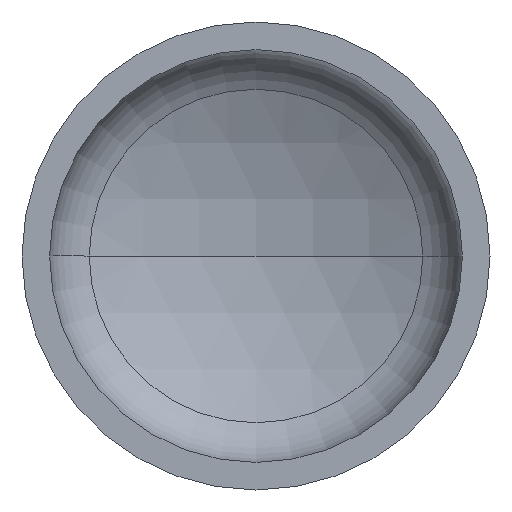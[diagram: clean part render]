
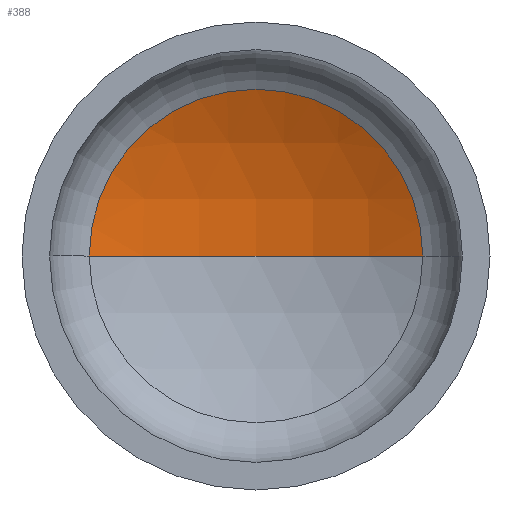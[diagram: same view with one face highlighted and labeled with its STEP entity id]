
A CAD part, front view. The second image highlights one B-rep face of the part: STEP entity #388.
In plain terms, the highlighted spherical face has radius 325 mm.
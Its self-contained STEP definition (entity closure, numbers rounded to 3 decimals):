
#18 = CARTESIAN_POINT ( 'NONE',  ( -144.829, 130.504, 0. ) ) ;
#30 = DIRECTION ( 'NONE',  ( 1., 0., 0. ) ) ;
#34 = DIRECTION ( 'NONE',  ( 0., 0., 1. ) ) ;
#43 = AXIS2_PLACEMENT_3D ( 'NONE', #148, #34, #30 ) ;
#44 = AXIS2_PLACEMENT_3D ( 'NONE', #196, #231, #230 ) ;
#51 = AXIS2_PLACEMENT_3D ( 'NONE', #252, #162, #177 ) ;
#96 = ORIENTED_EDGE ( 'NONE', *, *, #125, .T. ) ;
#103 = CARTESIAN_POINT ( 'NONE',  ( 0., -160.442, 0. ) ) ;
#104 = VERTEX_POINT ( 'NONE', #200 ) ;
#124 = CIRCLE ( 'NONE', #44, 325. ) ;
#125 = EDGE_CURVE ( 'NONE', #391, #127, #268, .T. ) ;
#127 = VERTEX_POINT ( 'NONE', #18 ) ;
#135 = EDGE_CURVE ( 'NONE', #104, #391, #124, .T. ) ;
#140 = SPHERICAL_SURFACE ( 'NONE', #213, 325. ) ;
#148 = CARTESIAN_POINT ( 'NONE',  ( 0., -160.442, 0. ) ) ;
#151 = EDGE_CURVE ( 'NONE', #104, #127, #335, .T. ) ;
#162 = DIRECTION ( 'NONE',  ( 0., -1., 0. ) ) ;
#176 = CARTESIAN_POINT ( 'NONE',  ( 144.829, 130.504, 0. ) ) ;
#177 = DIRECTION ( 'NONE',  ( 1., 0., 0. ) ) ;
#196 = CARTESIAN_POINT ( 'NONE',  ( 0., -160.442, 0. ) ) ;
#200 = CARTESIAN_POINT ( 'NONE',  ( 0., 164.558, 0. ) ) ;
#204 = ORIENTED_EDGE ( 'NONE', *, *, #135, .T. ) ;
#213 = AXIS2_PLACEMENT_3D ( 'NONE', #103, #365, #340 ) ;
#230 = DIRECTION ( 'NONE',  ( -1., 0., 0. ) ) ;
#231 = DIRECTION ( 'NONE',  ( 0., 0., -1. ) ) ;
#252 = CARTESIAN_POINT ( 'NONE',  ( 0., 130.504, 0. ) ) ;
#268 = CIRCLE ( 'NONE', #51, 144.829 ) ;
#295 = FACE_OUTER_BOUND ( 'NONE', #323, .T. ) ;
#320 = ORIENTED_EDGE ( 'NONE', *, *, #151, .F. ) ;
#323 = EDGE_LOOP ( 'NONE', ( #320, #204, #96 ) ) ;
#335 = CIRCLE ( 'NONE', #43, 325. ) ;
#340 = DIRECTION ( 'NONE',  ( -1., 0., 0. ) ) ;
#365 = DIRECTION ( 'NONE',  ( 0., 0., -1. ) ) ;
#388 = ADVANCED_FACE ( 'NONE', ( #295 ), #140, .F. ) ;
#391 = VERTEX_POINT ( 'NONE', #176 ) ;
